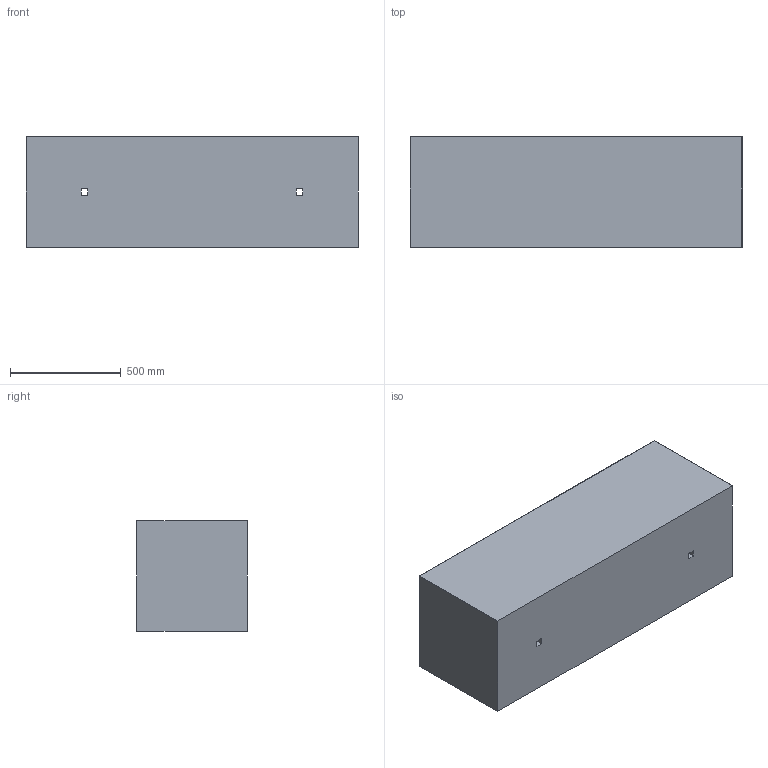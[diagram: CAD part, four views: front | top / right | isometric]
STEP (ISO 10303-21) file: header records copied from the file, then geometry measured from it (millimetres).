
FILE_DESCRIPTION(/* description */ (''),/* implementation_level */ '2;1');
FILE_NAME(/* name */ 'C:\Mac\Home\Desktop\btnv\inventor\basso1505050\donica betonowa Basso 150x50x50cm.stp',/* time_stamp */ '2025-11-10T22:10:58+01:00',/* author */ ('dwasik'),/* organization */ (''),/* preprocessor_version */ 'ST-DEVELOPER v15.6',/* originating_system */ 'Autodesk Inventor 2015',/* authorisation */ '');
FILE_SCHEMA (('AUTOMOTIVE_DESIGN { 1 0 10303 214 3 1 1 }'));
Length unit declared in the file: millimetre
Products named in the file (1): Part1
Bounding box: 1500 x 500 x 500 mm (x, y, z)
Volume: 100582713.1 mm3; surface area: 5196223.4 mm2
Topology: 1 solids, 1 shells, 31 faces, 72 edges, 44 vertices
Faces by surface type: plane 19, cylinder 8, sphere 4
Entity records: 898 total; most frequent: DIRECTION 152, CARTESIAN_POINT 148, ORIENTED_EDGE 144, EDGE_CURVE 72, LINE 56, VECTOR 56, AXIS2_PLACEMENT_3D 48, VERTEX_POINT 44
